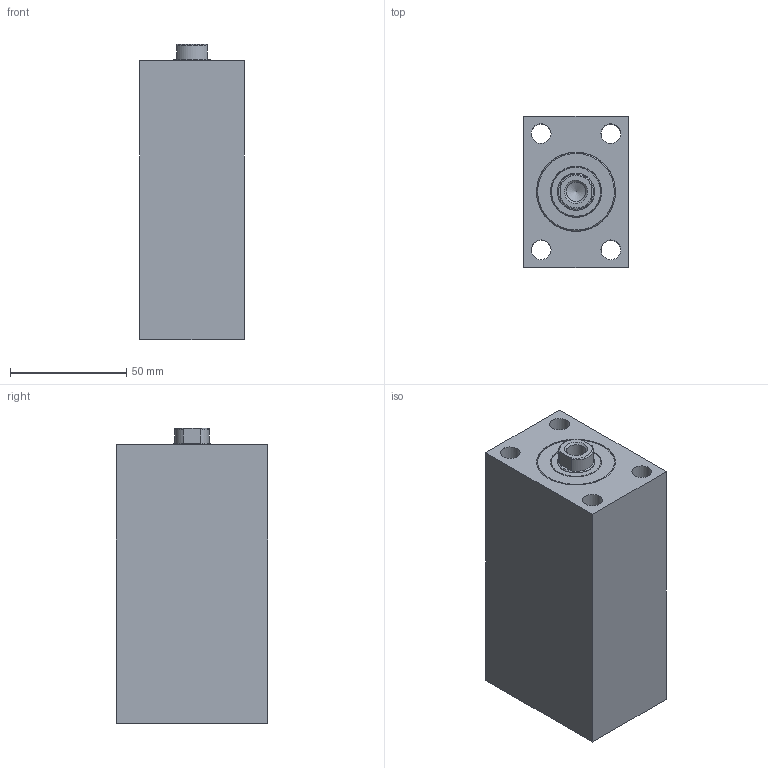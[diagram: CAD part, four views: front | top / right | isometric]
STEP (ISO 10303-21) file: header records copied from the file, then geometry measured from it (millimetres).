
FILE_DESCRIPTION( ( 'STEP AP203' ), '1' );
FILE_NAME( 'C:/Users/SAYKO.ltd/Desktop/SBZ100/02/SBZ100-25/SBZ100.25__FORM_02_STROKE_55__H2_58_POS_0_.stp', ' ', ( ' ' ), ( ' ' ), 'PSStep 15.0.47', 'PARTsolutions', ' ' );
FILE_SCHEMA( ( 'CONFIG_CONTROL_DESIGN' ) );
Length unit declared in the file: millimetre
Products named in the file (5): SBZ100.25  FORM=02 STROKE=55 (H2=58 POS=0); HI_SBZ10025  FORM=02 STROKE=55 H2=58 -C; HI_SBZ10025  FORM=02 STROKE=55-R; HI_SBZ100.25-C; HI_SBZ100.25-S
Assembly tree (4 placements, depth 2):
  SBZ100.25  FORM=02 STROKE=55 (H2=58 POS=0)
    HI_SBZ10025  FORM=02 STROKE=55 H2=58 -C
    HI_SBZ10025  FORM=02 STROKE=55-R
    HI_SBZ100.25-C
    HI_SBZ100.25-S
Bounding box: 45 x 65 x 127 mm (x, y, z)
Volume: 301213 mm3; surface area: 70291.5 mm2
Topology: 4 solids, 4 shells, 66 faces, 130 edges, 85 vertices
Faces by surface type: plane 31, cylinder 28, cone 4, torus 3
Full cylindrical faces by diameter (mm): 3 x2, 8.376 x1, 8.5 x4, 11.445 x2, 13.6 x4, 16 x6, 22 x1, 24 x2, 25 x2, 34 x2
Entity records: 3609 total; most frequent: CARTESIAN_POINT 2379, ORIENTED_EDGE 176, DIRECTION 158, EDGE_LOOP 128, FACE_OUTER_BOUND 93, EDGE_CURVE 88, VERTEX_POINT 77, B_SPLINE_CURVE_WITH_KNOTS 72
